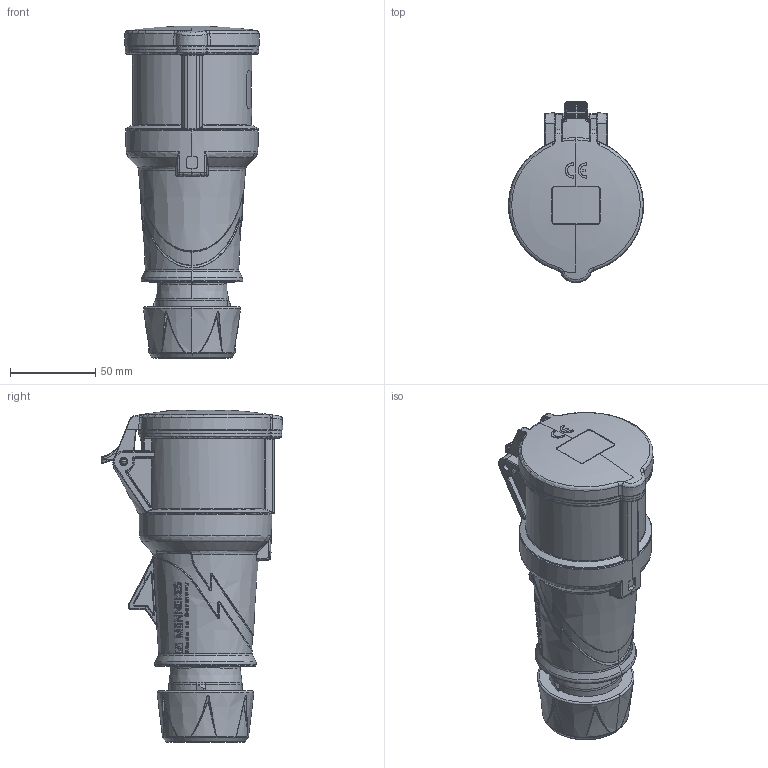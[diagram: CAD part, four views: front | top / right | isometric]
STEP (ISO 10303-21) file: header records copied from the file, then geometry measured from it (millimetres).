
FILE_DESCRIPTION((''),'2;1');
FILE_NAME('1110018_ASM_SW0004','2021-07-16T11:46:38',('schlabachr'),('MENNEKES'),'CREO PARAMETRIC BY PTC INC, 2019080','CREO PARAMETRIC BY PTC INC, 2019080','');
FILE_SCHEMA(('AUTOMOTIVE_DESIGN { 1 0 10303 214 1 1 1 1 }'));
Length unit declared in the file: millimetre
Products named in the file (1): 1110018_ASM_SW0004
Bounding box: 79.4 x 106.83 x 195.13 mm (x, y, z)
Volume: 623788 mm3; surface area: 61329.7 mm2
Topology: 1 solids, 1 shells, 1917 faces, 4889 edges, 3040 vertices
Faces by surface type: bspline 1094, plane 240, cylinder 202, extrusion 169, cone 109, torus 81, sphere 22
Entity records: 121218 total; most frequent: CARTESIAN_POINT 66589, ORIENTED_EDGE 9774, EDGE_CURVE 4887, DIRECTION 4422, B_SPLINE_CURVE_WITH_KNOTS 3179, VERTEX_POINT 3040, FILL_AREA_STYLE_COLOUR 2564, FILL_AREA_STYLE 2564
